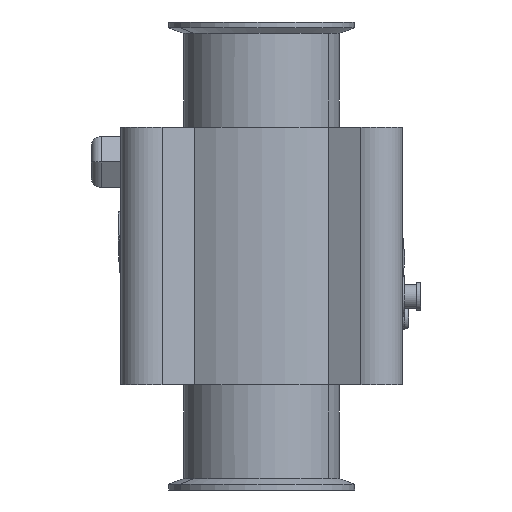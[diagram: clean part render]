
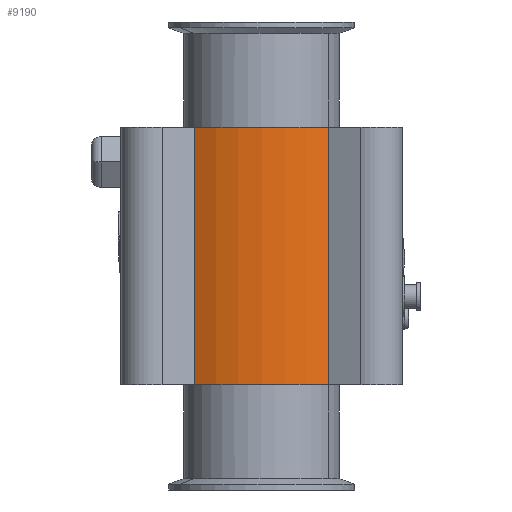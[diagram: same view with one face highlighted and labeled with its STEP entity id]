
A CAD part, front view. The second image highlights one B-rep face of the part: STEP entity #9190.
In plain terms, the highlighted cylindrical face has radius 68 mm (diameter 136 mm), a partial arc.
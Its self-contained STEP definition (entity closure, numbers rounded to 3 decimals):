
#720=CARTESIAN_POINT('',(-65.288,-113.,19.012));
#730=VERTEX_POINT('',#720);
#760=CARTESIAN_POINT('',(0.,-113.,0.));
#770=DIRECTION('',(0.,-1.,0.));
#780=DIRECTION('',(0.,0.,-1.));
#790=AXIS2_PLACEMENT_3D('',#760,#770,#780);
#800=CIRCLE('',#790,68.);
#810=CARTESIAN_POINT('',(-19.012,-113.,65.288));
#820=VERTEX_POINT('',#810);
#830=EDGE_CURVE('',#820,#730,#800,.T.);
#4070=CARTESIAN_POINT('',(-19.012,13.,65.288));
#4080=VERTEX_POINT('',#4070);
#4130=CARTESIAN_POINT('',(-19.012,13.,65.288));
#4140=DIRECTION('',(0.,-1.,0.));
#4150=VECTOR('',#4140,1000.);
#4160=LINE('',#4130,#4150);
#4170=EDGE_CURVE('',#4080,#820,#4160,.T.);
#4970=CARTESIAN_POINT('',(-65.288,13.,19.012));
#4980=VERTEX_POINT('',#4970);
#5010=CARTESIAN_POINT('',(-65.288,13.,19.012));
#5020=DIRECTION('',(0.,-1.,0.));
#5030=VECTOR('',#5020,1000.);
#5040=LINE('',#5010,#5030);
#5050=EDGE_CURVE('',#4980,#730,#5040,.T.);
#9020=CARTESIAN_POINT('',(0.,13.,0.));
#9030=DIRECTION('',(0.,-1.,0.));
#9040=DIRECTION('',(0.,0.,-1.));
#9050=AXIS2_PLACEMENT_3D('',#9020,#9030,#9040);
#9060=CYLINDRICAL_SURFACE('',#9050,68.);
#9070=ORIENTED_EDGE('',*,*,#830,.F.);
#9080=ORIENTED_EDGE('',*,*,#5050,.T.);
#9090=CARTESIAN_POINT('',(0.,13.,0.));
#9100=DIRECTION('',(0.,-1.,0.));
#9110=DIRECTION('',(0.,0.,-1.));
#9120=AXIS2_PLACEMENT_3D('',#9090,#9100,#9110);
#9130=CIRCLE('',#9120,68.);
#9140=EDGE_CURVE('',#4080,#4980,#9130,.T.);
#9150=ORIENTED_EDGE('',*,*,#9140,.T.);
#9160=ORIENTED_EDGE('',*,*,#4170,.F.);
#9170=EDGE_LOOP('',(#9160,#9150,#9080,#9070));
#9180=FACE_OUTER_BOUND('',#9170,.T.);
#9190=ADVANCED_FACE('',(#9180),#9060,.T.);
